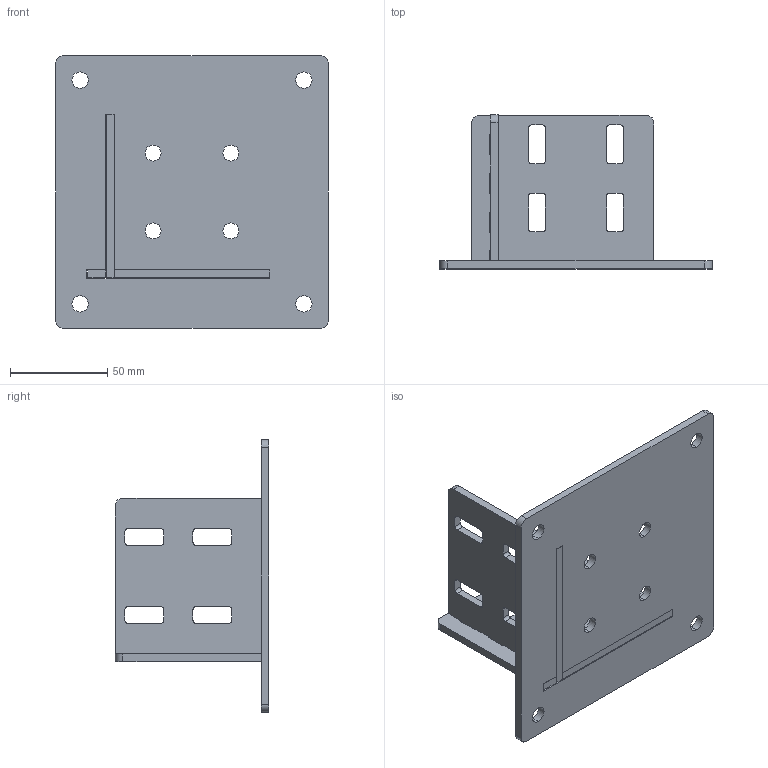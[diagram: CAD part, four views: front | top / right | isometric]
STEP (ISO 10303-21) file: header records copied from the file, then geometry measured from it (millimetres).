
FILE_DESCRIPTION (( 'STEP AP203' ), '1' );
FILE_NAME ('Ñáîðêà 11403.STEP', '2016-08-02T12:30:06', ( '' ), ( '' ), 'SwSTEP 2.0', 'SolidWorks 2014', '' );
FILE_SCHEMA (( 'CONFIG_CONTROL_DESIGN' ));
Length unit declared in the file: millimetre
Products named in the file (7): 11403-1; 11403-2; 11403-3; 11403
Assembly tree (3 placements, depth 2):
  11403
    11403-1
    11403-2
    11403-3
  11403-1
  11403-2
  11403-3
Bounding box: 140 x 79 x 140 mm (x, y, z)
Volume: 122778.5 mm3; surface area: 70799.2 mm2
Topology: 3 solids, 3 shells, 143 faces, 411 edges, 274 vertices
Faces by surface type: plane 88, cylinder 55
Entity records: 5415 total; most frequent: CARTESIAN_POINT 835, ORIENTED_EDGE 822, DIRECTION 821, EDGE_CURVE 411, LINE 301, VECTOR 301, VERTEX_POINT 274, AXIS2_PLACEMENT_3D 260
